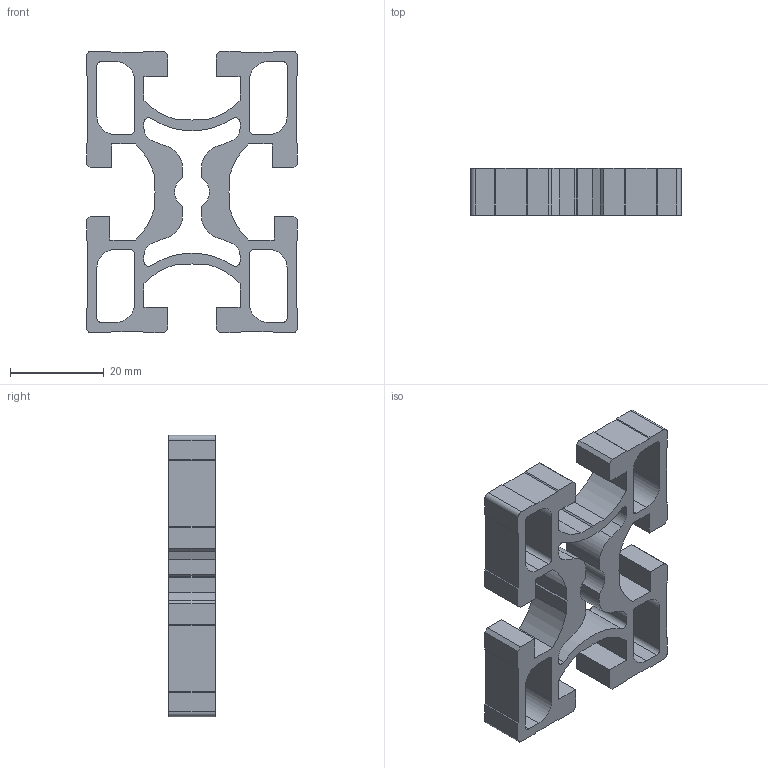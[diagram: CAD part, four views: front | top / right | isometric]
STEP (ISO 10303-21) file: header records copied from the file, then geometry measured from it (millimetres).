
FILE_DESCRIPTION((''),'2;1');
FILE_NAME('PR045060P','2002-12-27T',('Lipro doo'),('Lipro d.o.o.'),'PRO/ENGINEER BY PARAMETRIC TECHNOLOGY CORPORATION, 2001150','PRO/ENGINEER BY PARAMETRIC TECHNOLOGY CORPORATION, 2001150','');
FILE_SCHEMA(('CONFIG_CONTROL_DESIGN'));
Length unit declared in the file: millimetre
Products named in the file (1): PR045060P
Bounding box: 45 x 10 x 60 mm (x, y, z)
Volume: 10521 mm3; surface area: 8885.2 mm2
Topology: 1 solids, 1 shells, 162 faces, 480 edges, 320 vertices
Faces by surface type: plane 114, cylinder 48
Entity records: 5458 total; most frequent: CARTESIAN_POINT 962, ORIENTED_EDGE 960, DIRECTION 900, EDGE_CURVE 480, VECTOR 384, LINE 384, VERTEX_POINT 320, AXIS2_PLACEMENT_3D 258
